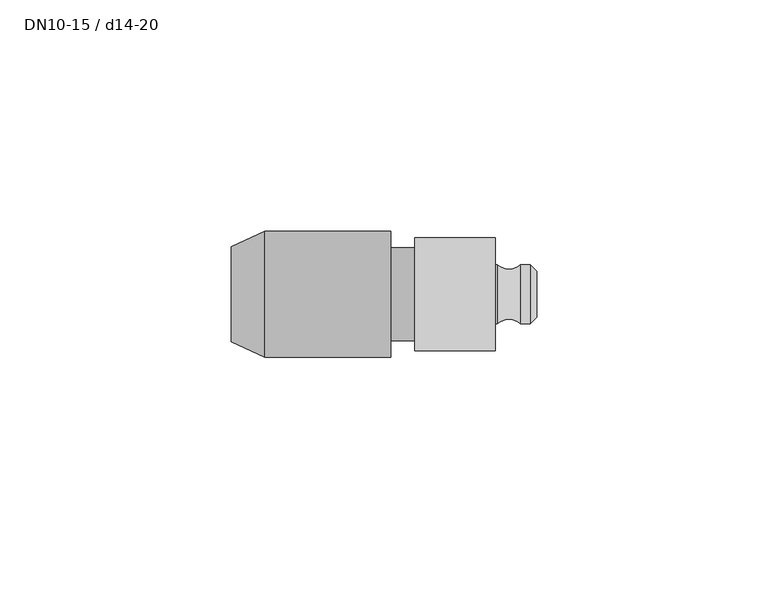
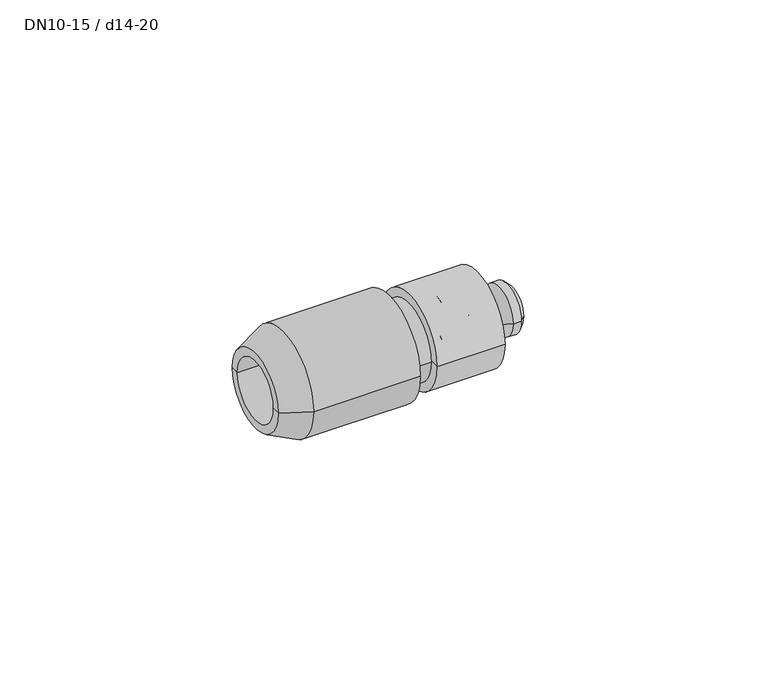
"""IFC4 building model written with IfcOpenShell, lengths in millimetres: pipe fitting geometry, NLRS_50_PIF_UN_PushFit overgang met MasterFix_geb : DN10-15 / d14-20."""

from ifc_helpers import new_model, si_unit, point, frame, origin, origin_2d, place, context, project, spatial, polyline, circle_curve, ellipse_curve, trimmed, segment, composite_curve, outline, extrude, source, transform, mapped, element, save
from ifc_brep_helpers import plane_surface, cylinder_surface, revolved_surface, advanced_brep


def dn10_15_d14_20_68aab010(model_context):
    return source(origin(), model_context, "Body", "SolidModel", [
        advanced_brep(
        [(25.0, 12.25, 0.0), (25.0, -12.25, 0.0), (7.6, -12.25, 0.0), (7.6, 12.25, 0.0), (25.0, 10.25, 0.0), (25.0, -10.25, 0.0), (12.6, 10.25, 0.0), (12.6, -10.25, 0.0), (12.6, 0.0, 0.0), (7.6, 0.0, 0.0)],
        [
            (0, 1, circle_curve(frame((25.0, 0.0, 0.0), z_axis=(-1.0, 0.0, 0.0), x_axis=(0.0, -1.0, 0.0)), 12.25)),
            (1, 2),
            (2, 3, circle_curve(frame((7.6, 0.0, 0.0), z_axis=(1.0, 0.0, 0.0), x_axis=(0.0, -1.0, 0.0)), 12.25)),
            (3, 0),
            (1, 0, circle_curve(frame((25.0, 0.0, 0.0), z_axis=(-1.0, 0.0, 0.0), x_axis=(0.0, -1.0, 0.0)), 12.25)),
            (3, 2, circle_curve(frame((7.6, 0.0, 0.0), z_axis=(1.0, 0.0, 0.0), x_axis=(0.0, -1.0, 0.0)), 12.25)),
            (4, 5, circle_curve(frame((25.0, 0.0, 0.0), z_axis=(-1.0, 0.0, 0.0), x_axis=(0.0, -1.0, 0.0)), 10.25)),
            (5, 1),
            (0, 4),
            (5, 4, circle_curve(frame((25.0, 0.0, 0.0), z_axis=(-1.0, 0.0, 0.0), x_axis=(0.0, -1.0, 0.0)), 10.25)),
            (6, 7, circle_curve(frame((12.6, 0.0, 0.0), z_axis=(-1.0, 0.0, 0.0), x_axis=(0.0, -1.0, 0.0)), 10.25)),
            (7, 5),
            (4, 6),
            (7, 6, circle_curve(frame((12.6, 0.0, 0.0), z_axis=(-1.0, 0.0, 0.0), x_axis=(0.0, -1.0, 0.0)), 10.25)),
            (8, 7),
            (6, 8),
            (2, 9),
            (9, 3),
        ],
        [
            cylinder_surface(frame((40.0, 0.0, 0.0), z_axis=(1.0, 0.0, 0.0), x_axis=(0.0, -1.0, 0.0)), 12.25),
            plane_surface(frame((25.0, 0.0, 0.0), z_axis=(1.0, 0.0, 0.0), x_axis=(0.0, -1.0, 0.0))),
            revolved_surface(polyline([(25.0, -10.25, 0.0), (12.600000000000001, -10.25, 0.0)]), (40.0, 0.0, 0.0), (1.0, 0.0, 0.0)),
            plane_surface(frame((12.6, 0.0, 0.0), z_axis=(1.0, 0.0, 0.0), x_axis=(0.0, -1.0, 0.0))),
            plane_surface(frame((7.6, 0.0, 0.0), z_axis=(-1.0, 0.0, 0.0), x_axis=(0.0, -1.0, 0.0))),
        ],
        [
            (0, [[1, 2, 3, 4]]),
            (0, [[5, -4, 6, -2]]),
            (1, [[7, 8, -1, 9]]),
            (1, [[10, -9, -5, -8]]),
            (2, [[11, 12, -7, 13]]),
            (2, [[14, -13, -10, -12]]),
            (3, [[15, -11, 16]]),
            (3, [[-16, -14, -15]]),
            (4, [[-3, 17, 18]]),
            (4, [[-6, -18, -17]]),
        ],
    ),
        advanced_brep(
        [(17.6195019, 6.35, 0.0), (17.6195019, -6.35, 0.0), (14.0, -6.35, 0.0), (14.0, 6.35, 0.0), (20.3804981, 6.35, 0.0), (20.3804981, -6.35, 0.0), (25.5, 6.35, 0.0), (25.5, -6.35, 0.0), (30.5, 6.35, 0.0), (30.5, -6.35, 0.0), (32.6212479, 6.35, 0.0), (32.6212479, -6.35, 0.0), (34.0, 0.0, 0.0), (34.0, -4.9712479, 0.0), (34.0, 4.9712479, 0.0), (12.6, 10.0, 0.0), (12.6, -10.0, 0.0), (12.6, 0.0, 0.0), (14.0, 10.0, 0.0), (14.0, -10.0, 0.0)],
        [
            (0, 1, circle_curve(frame((17.6195019, 0.0, 0.0), z_axis=(-1.0, 0.0, 0.0), x_axis=(0.0, -1.0, 0.0)), 6.35)),
            (1, 2),
            (2, 3, circle_curve(frame((14.0, 0.0, 0.0), z_axis=(1.0, 0.0, 0.0), x_axis=(0.0, -1.0, 0.0)), 6.35)),
            (3, 0),
            (1, 0, circle_curve(frame((17.6195019, 0.0, 0.0), z_axis=(-1.0, 0.0, 0.0), x_axis=(0.0, -1.0, 0.0)), 6.35)),
            (3, 2, circle_curve(frame((14.0, 0.0, 0.0), z_axis=(1.0, 0.0, 0.0), x_axis=(0.0, -1.0, 0.0)), 6.35)),
            (4, 5, circle_curve(frame((20.3804981, 0.0, 0.0), z_axis=(-1.0, 0.0, 0.0), x_axis=(0.0, -1.0, 0.0)), 6.35)),
            (5, 1, circle_curve(frame((19.0, -5.8811513, 0.0), z_axis=(0.0, 0.0, -1.0), x_axis=(-1.0, 0.0, 0.0)), 1.4579417)),
            (0, 4, circle_curve(frame((19.0, 5.8811513, 0.0), z_axis=(0.0, 0.0, -1.0), x_axis=(-1.0, 0.0, 0.0)), 1.4579417)),
            (5, 4, circle_curve(frame((20.3804981, 0.0, 0.0), z_axis=(-1.0, 0.0, 0.0), x_axis=(0.0, -1.0, 0.0)), 6.35)),
            (6, 7, circle_curve(frame((25.5, 0.0, 0.0), z_axis=(-1.0, 0.0, 0.0), x_axis=(0.0, -1.0, 0.0)), 6.35)),
            (7, 5),
            (4, 6),
            (7, 6, circle_curve(frame((25.5, 0.0, 0.0), z_axis=(-1.0, 0.0, 0.0), x_axis=(0.0, -1.0, 0.0)), 6.35)),
            (8, 9, circle_curve(frame((30.5, 0.0, 0.0), z_axis=(-1.0, 0.0, 0.0), x_axis=(0.0, -1.0, 0.0)), 6.35)),
            (9, 7, circle_curve(frame((28.0, -9.2233153, 0.0), z_axis=(0.0, 0.0, 1.0), x_axis=(-1.0, 0.0, 0.0)), 3.8086665)),
            (6, 8, circle_curve(frame((28.0, 9.2233153, 0.0), z_axis=(0.0, 0.0, 1.0), x_axis=(-1.0, 0.0, 0.0)), 3.8086665)),
            (9, 8, circle_curve(frame((30.5, 0.0, 0.0), z_axis=(-1.0, 0.0, 0.0), x_axis=(0.0, -1.0, 0.0)), 6.35)),
            (10, 11, circle_curve(frame((32.6212479, 0.0, 0.0), z_axis=(-1.0, 0.0, 0.0), x_axis=(0.0, -1.0, 0.0)), 6.35)),
            (11, 9),
            (8, 10),
            (11, 10, circle_curve(frame((32.6212479, 0.0, 0.0), z_axis=(-1.0, 0.0, 0.0), x_axis=(0.0, -1.0, 0.0)), 6.35)),
            (12, 13),
            (13, 14, circle_curve(frame((34.0, 0.0, 0.0), z_axis=(1.0, 0.0, 0.0), x_axis=(0.0, -1.0, 0.0)), 4.9712479)),
            (14, 12),
            (14, 13, circle_curve(frame((34.0, 0.0, 0.0), z_axis=(1.0, 0.0, 0.0), x_axis=(0.0, -1.0, 0.0)), 4.9712479)),
            (15, 16, circle_curve(frame((12.6, 0.0, 0.0), z_axis=(-1.0, 0.0, 0.0), x_axis=(0.0, -1.0, 0.0)), 10.0)),
            (16, 17),
            (17, 15),
            (16, 15, circle_curve(frame((12.6, 0.0, 0.0), z_axis=(-1.0, 0.0, 0.0), x_axis=(0.0, -1.0, 0.0)), 10.0)),
            (18, 19, circle_curve(frame((14.0, 0.0, 0.0), z_axis=(-1.0, 0.0, 0.0), x_axis=(0.0, -1.0, 0.0)), 10.0)),
            (19, 16, circle_curve(frame((13.3, -10.0, 0.0), z_axis=(0.0, 0.0, -1.0), x_axis=(-1.0, 0.0, 0.0)), 0.7)),
            (15, 18, circle_curve(frame((13.3, 10.0, 0.0), z_axis=(0.0, 0.0, -1.0), x_axis=(-1.0, 0.0, 0.0)), 0.7)),
            (19, 18, circle_curve(frame((14.0, 0.0, 0.0), z_axis=(-1.0, 0.0, 0.0), x_axis=(0.0, -1.0, 0.0)), 10.0)),
            (2, 19),
            (18, 3),
            (13, 11),
            (10, 14),
        ],
        [
            cylinder_surface(frame((42.2935438, 0.0, 0.0), z_axis=(1.0, 0.0, 0.0), x_axis=(0.0, -1.0, 0.0)), 6.35),
            revolved_surface(trimmed(ellipse_curve(frame((19.0, -5.8811513, 0.0), z_axis=(0.0, 0.0, 1.0), x_axis=(-1.0, 0.0, 0.0)), 1.4579417, 1.4579417), [point((17.6195019, -6.35, 0.0))], [point((20.3804981, -6.35, 0.0))], True, "CARTESIAN"), (42.2935438, 0.0, 0.0), (1.0, 0.0, 0.0)),
            revolved_surface(trimmed(ellipse_curve(frame((28.0, -9.2233153, 0.0), z_axis=(0.0, 0.0, -1.0), x_axis=(-1.0, 0.0, 0.0)), 3.8086665, 3.8086665), [point((25.5, -6.35, 0.0))], [point((30.5, -6.35, 0.0))], True, "CARTESIAN"), (42.2935438, 0.0, 0.0), (1.0, 0.0, 0.0)),
            plane_surface(frame((34.0, 0.0, 0.0), z_axis=(1.0, 0.0, 0.0), x_axis=(0.0, -1.0, 0.0))),
            plane_surface(frame((12.6, 0.0, 0.0), z_axis=(-1.0, 0.0, 0.0), x_axis=(0.0, -1.0, 0.0))),
            revolved_surface(trimmed(ellipse_curve(frame((13.3, -10.0, 0.0), z_axis=(0.0, 0.0, 1.0), x_axis=(-1.0, 0.0, 0.0)), 0.7, 0.7), [point((12.6, -10.0, 0.0))], [point((14.0, -10.0, 0.0))], True, "CARTESIAN"), (42.2935438, 0.0, 0.0), (1.0, 0.0, 0.0)),
            plane_surface(frame((14.0, 0.0, 0.0), z_axis=(1.0, 0.0, 0.0), x_axis=(0.0, -1.0, 0.0))),
            revolved_surface(polyline([(32.6212479, -6.35, 0.0), (34.0, -4.9712479, 0.0)]), (42.2935438, 0.0, 0.0), (1.0, 0.0, 0.0)),
        ],
        [
            (0, [[1, 2, 3, 4]]),
            (0, [[5, -4, 6, -2]]),
            (1, [[7, 8, -1, 9]]),
            (1, [[10, -9, -5, -8]]),
            (0, [[11, 12, -7, 13]]),
            (0, [[14, -13, -10, -12]]),
            (2, [[15, 16, -11, 17]]),
            (2, [[18, -17, -14, -16]]),
            (0, [[19, 20, -15, 21]]),
            (0, [[22, -21, -18, -20]]),
            (3, [[23, 24, 25]]),
            (3, [[-25, 26, -23]]),
            (4, [[27, 28, 29]]),
            (4, [[30, -29, -28]]),
            (5, [[31, 32, -27, 33]]),
            (5, [[34, -33, -30, -32]]),
            (6, [[-3, 35, -31, 36]]),
            (6, [[-6, -36, -34, -35]]),
            (7, [[-24, 37, -19, 38]]),
            (7, [[-26, -38, -22, -37]]),
        ],
    ),
        advanced_brep(
        [(2.5, -13.6, 0.0), (2.5, 13.6, 0.0), (2.5, 0.0, 0.0), (-24.8159018, -13.6, 0.0), (-24.8159018, 13.6, 0.0), (-32.0, -10.25, 0.0), (-32.0, 10.25, 0.0), (-12.0, -8.0, 0.0), (-12.0, 8.0, 0.0), (-32.0, 8.0, 0.0), (-32.0, -8.0, 0.0), (-12.0, 0.0, 0.0)],
        [
            (0, 1, circle_curve(frame((2.5, 0.0, 0.0), z_axis=(1.0, 0.0, 0.0), x_axis=(0.0, 1.0, 0.0)), 13.6)),
            (1, 2),
            (2, 0),
            (1, 0, circle_curve(frame((2.5, 0.0, 0.0), z_axis=(1.0, 0.0, 0.0), x_axis=(0.0, 1.0, 0.0)), 13.6)),
            (3, 4, circle_curve(frame((-24.8159018, 0.0, 0.0), z_axis=(1.0, 0.0, 0.0), x_axis=(0.0, 1.0, 0.0)), 13.6)),
            (4, 1),
            (0, 3),
            (4, 3, circle_curve(frame((-24.8159018, 0.0, 0.0), z_axis=(1.0, 0.0, 0.0), x_axis=(0.0, 1.0, 0.0)), 13.6)),
            (5, 6, circle_curve(frame((-32.0, 0.0, 0.0), z_axis=(1.0, 0.0, 0.0), x_axis=(0.0, 1.0, 0.0)), 10.25)),
            (6, 4),
            (3, 5),
            (6, 5, circle_curve(frame((-32.0, 0.0, 0.0), z_axis=(1.0, 0.0, 0.0), x_axis=(0.0, 1.0, 0.0)), 10.25)),
            (7, 8, circle_curve(frame((-12.0, 0.0, 0.0), z_axis=(1.0, 0.0, 0.0), x_axis=(0.0, 1.0, 0.0)), 8.0)),
            (8, 9),
            (9, 10, circle_curve(frame((-32.0, 0.0, 0.0), z_axis=(-1.0, 0.0, 0.0), x_axis=(0.0, 1.0, 0.0)), 8.0)),
            (10, 7),
            (8, 7, circle_curve(frame((-12.0, 0.0, 0.0), z_axis=(1.0, 0.0, 0.0), x_axis=(0.0, 1.0, 0.0)), 8.0)),
            (10, 9, circle_curve(frame((-32.0, 0.0, 0.0), z_axis=(-1.0, 0.0, 0.0), x_axis=(0.0, 1.0, 0.0)), 8.0)),
            (11, 8),
            (7, 11),
            (9, 6),
            (5, 10),
        ],
        [
            plane_surface(frame((2.5, 0.0, 0.0), z_axis=(1.0, 0.0, 0.0), x_axis=(0.0, 1.0, 0.0))),
            cylinder_surface(frame((-42.0, 0.0, 0.0), z_axis=(-1.0, 0.0, 0.0), x_axis=(0.0, 1.0, 0.0)), 13.6),
            revolved_surface(polyline([(-24.8159018, 13.6, 0.0), (-32.0, 10.25, 0.0)]), (-42.0, 0.0, 0.0), (-1.0, 0.0, 0.0)),
            revolved_surface(polyline([(-32.0, 8.0, 0.0), (-12.0, 8.0, 0.0)]), (-42.0, 0.0, 0.0), (-1.0, 0.0, 0.0)),
            plane_surface(frame((-12.0, 0.0, 0.0), z_axis=(-1.0, 0.0, 0.0), x_axis=(0.0, 1.0, 0.0))),
            plane_surface(frame((-32.0, 0.0, 0.0), z_axis=(-1.0, 0.0, 0.0), x_axis=(0.0, 1.0, 0.0))),
        ],
        [
            (0, [[1, 2, 3]]),
            (0, [[4, -3, -2]]),
            (1, [[5, 6, -1, 7]]),
            (1, [[8, -7, -4, -6]]),
            (2, [[9, 10, -5, 11]]),
            (2, [[12, -11, -8, -10]]),
            (3, [[13, 14, 15, 16]]),
            (3, [[17, -16, 18, -14]]),
            (4, [[19, -13, 20]]),
            (4, [[-20, -17, -19]]),
            (5, [[-15, 21, -9, 22]]),
            (5, [[-18, -22, -12, -21]]),
        ],
    ),
        extrude(outline(composite_curve([segment(trimmed(circle_curve(origin_2d(), 10.0), [point((-10.0, 0.0))], [point((10.0, 0.0))], False, "CARTESIAN"), True, "CONTINUOUS"), segment(trimmed(circle_curve(origin_2d(), 10.0), [point((10.0, 0.0))], [point((-10.0, 0.0))], False, "CARTESIAN"), True, "CONTINUOUS")], self_intersect=False)), frame((2.5, 0.0, 0.0), z_axis=(1.0, 0.0, 0.0), x_axis=(0.0, 1.0, 0.0)), (0.0, 0.0, 1.0), 5.1),
    ])


if __name__ == "__main__":
    model = new_model("IFC4")
    model_context = context("Model", 3, world=origin())
    ifc_project = project(units=[si_unit("LENGTHUNIT", "METRE", prefix="MILLI")], contexts=[model_context])
    site = spatial("IfcSite", under=ifc_project)
    building = spatial("IfcBuilding", under=site)
    placement = place(None, origin())
    dn10_15_d14_20_shape = dn10_15_d14_20_68aab010(model_context)
    element("IfcPipeFitting", 1, ObjectType="NLRS_50_PIF_UN_PushFit overgang met MasterFix_geb : DN10-15 / d14-20", at=placement, inside=building, context=model_context, shape_type="MappedRepresentation", body=[
        mapped(dn10_15_d14_20_shape, transform((0.0, 0.0, 0.0), x_axis=(1.0, 0.0, 0.0), y_axis=(0.0, 1.0, 0.0), z_axis=(0.0, 0.0, 1.0))),
    ])
    save(model, "model.ifc")
